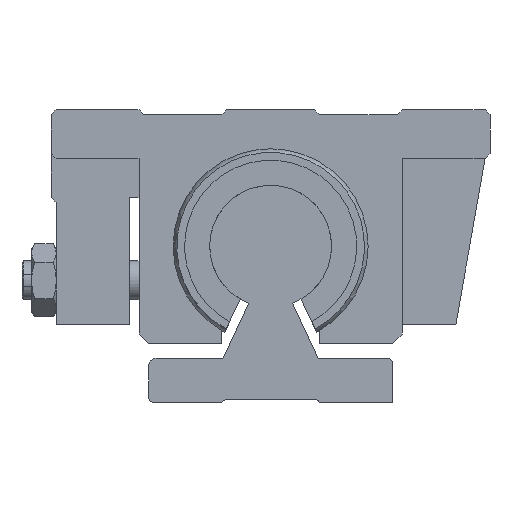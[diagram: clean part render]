
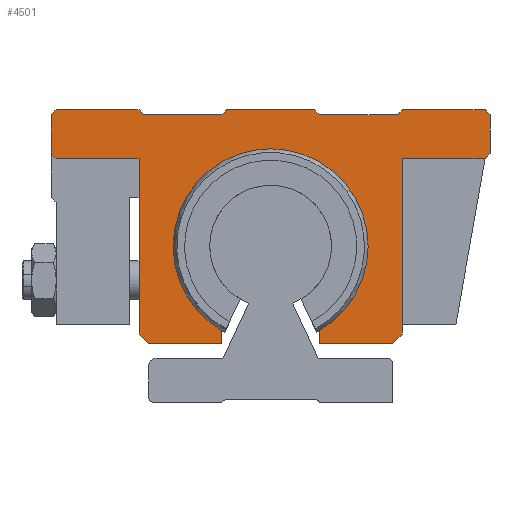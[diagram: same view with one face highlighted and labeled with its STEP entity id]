
A CAD part, left-side view. The second image highlights one B-rep face of the part: STEP entity #4501.
In plain terms, the highlighted planar face has unit normal (-1, 0, 0).
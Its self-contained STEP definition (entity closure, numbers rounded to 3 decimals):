
#4146=CARTESIAN_POINT('',(265.936,-10.,14.679));
#4147=VERTEX_POINT('',#4146);
#4154=CARTESIAN_POINT('',(265.936,10.,14.679));
#4155=VERTEX_POINT('',#4154);
#4156=CARTESIAN_POINT('',(265.936,0.,32.0));
#4157=DIRECTION('',(-1.0,0.0,0.0));
#4158=DIRECTION('',(0.0,-0.5,0.866));
#4159=AXIS2_PLACEMENT_3D('',#4156,#4157,#4158);
#4160=CIRCLE('',#4159,20.0);
#4161=EDGE_CURVE('',#4147,#4155,#4160,.T.);
#4263=CARTESIAN_POINT('',(265.936,-45.,51.));
#4264=VERTEX_POINT('',#4263);
#4271=CARTESIAN_POINT('',(265.936,-44.,50.0));
#4272=VERTEX_POINT('',#4271);
#4273=CARTESIAN_POINT('',(265.936,-45.,51.));
#4274=DIRECTION('',(0.0,0.707,-0.707));
#4275=VECTOR('',#4274,1.414);
#4276=LINE('',#4273,#4275);
#4277=EDGE_CURVE('',#4264,#4272,#4276,.T.);
#4304=CARTESIAN_POINT('',(265.936,-36.,59.5));
#4305=DIRECTION('',(1.0,0.0,0.0));
#4306=DIRECTION('',(0.0,0.0,-1.0));
#4307=AXIS2_PLACEMENT_3D('',#4304,#4305,#4306);
#4308=PLANE('',#4307);
#4309=ORIENTED_EDGE('',*,*,#4277,.F.);
#4310=CARTESIAN_POINT('',(265.936,-45.,59.));
#4311=VERTEX_POINT('',#4310);
#4312=CARTESIAN_POINT('',(265.936,-45.,59.));
#4313=DIRECTION('',(0.0,0.0,-1.0));
#4314=VECTOR('',#4313,8.);
#4315=LINE('',#4312,#4314);
#4316=EDGE_CURVE('',#4311,#4264,#4315,.T.);
#4317=ORIENTED_EDGE('',*,*,#4316,.F.);
#4318=CARTESIAN_POINT('',(265.936,-44.,60.0));
#4319=VERTEX_POINT('',#4318);
#4320=CARTESIAN_POINT('',(265.936,-44.,60.0));
#4321=DIRECTION('',(0.0,-0.707,-0.707));
#4322=VECTOR('',#4321,1.414);
#4323=LINE('',#4320,#4322);
#4324=EDGE_CURVE('',#4319,#4311,#4323,.T.);
#4325=ORIENTED_EDGE('',*,*,#4324,.F.);
#4326=CARTESIAN_POINT('',(265.936,-27.,60.0));
#4327=VERTEX_POINT('',#4326);
#4328=CARTESIAN_POINT('',(265.936,-27.,60.0));
#4329=DIRECTION('',(0.0,-1.0,0.0));
#4330=VECTOR('',#4329,17.0);
#4331=LINE('',#4328,#4330);
#4332=EDGE_CURVE('',#4327,#4319,#4331,.T.);
#4333=ORIENTED_EDGE('',*,*,#4332,.F.);
#4334=CARTESIAN_POINT('',(265.936,-26.,59.));
#4335=VERTEX_POINT('',#4334);
#4336=CARTESIAN_POINT('',(265.936,-26.,59.));
#4337=DIRECTION('',(0.0,-0.707,0.707));
#4338=VECTOR('',#4337,1.414);
#4339=LINE('',#4336,#4338);
#4340=EDGE_CURVE('',#4335,#4327,#4339,.T.);
#4341=ORIENTED_EDGE('',*,*,#4340,.F.);
#4342=CARTESIAN_POINT('',(265.936,-10.,59.));
#4343=VERTEX_POINT('',#4342);
#4344=CARTESIAN_POINT('',(265.936,-10.,59.));
#4345=DIRECTION('',(0.0,-1.0,0.0));
#4346=VECTOR('',#4345,16.0);
#4347=LINE('',#4344,#4346);
#4348=EDGE_CURVE('',#4343,#4335,#4347,.T.);
#4349=ORIENTED_EDGE('',*,*,#4348,.F.);
#4350=CARTESIAN_POINT('',(265.936,-9.,60.0));
#4351=VERTEX_POINT('',#4350);
#4352=CARTESIAN_POINT('',(265.936,-9.,60.0));
#4353=DIRECTION('',(0.0,-0.707,-0.707));
#4354=VECTOR('',#4353,1.414);
#4355=LINE('',#4352,#4354);
#4356=EDGE_CURVE('',#4351,#4343,#4355,.T.);
#4357=ORIENTED_EDGE('',*,*,#4356,.F.);
#4358=CARTESIAN_POINT('',(265.936,9.,60.0));
#4359=VERTEX_POINT('',#4358);
#4360=CARTESIAN_POINT('',(265.936,9.,60.0));
#4361=DIRECTION('',(0.0,-1.0,0.0));
#4362=VECTOR('',#4361,18.);
#4363=LINE('',#4360,#4362);
#4364=EDGE_CURVE('',#4359,#4351,#4363,.T.);
#4365=ORIENTED_EDGE('',*,*,#4364,.F.);
#4366=CARTESIAN_POINT('',(265.936,10.,59.));
#4367=VERTEX_POINT('',#4366);
#4368=CARTESIAN_POINT('',(265.936,10.,59.));
#4369=DIRECTION('',(0.0,-0.707,0.707));
#4370=VECTOR('',#4369,1.414);
#4371=LINE('',#4368,#4370);
#4372=EDGE_CURVE('',#4367,#4359,#4371,.T.);
#4373=ORIENTED_EDGE('',*,*,#4372,.F.);
#4374=CARTESIAN_POINT('',(265.936,26.,59.));
#4375=VERTEX_POINT('',#4374);
#4376=CARTESIAN_POINT('',(265.936,26.,59.));
#4377=DIRECTION('',(0.0,-1.0,0.0));
#4378=VECTOR('',#4377,16.);
#4379=LINE('',#4376,#4378);
#4380=EDGE_CURVE('',#4375,#4367,#4379,.T.);
#4381=ORIENTED_EDGE('',*,*,#4380,.F.);
#4382=CARTESIAN_POINT('',(265.936,27.,60.0));
#4383=VERTEX_POINT('',#4382);
#4384=CARTESIAN_POINT('',(265.936,27.,60.0));
#4385=DIRECTION('',(0.0,-0.707,-0.707));
#4386=VECTOR('',#4385,1.414);
#4387=LINE('',#4384,#4386);
#4388=EDGE_CURVE('',#4383,#4375,#4387,.T.);
#4389=ORIENTED_EDGE('',*,*,#4388,.F.);
#4390=CARTESIAN_POINT('',(265.936,44.,60.0));
#4391=VERTEX_POINT('',#4390);
#4392=CARTESIAN_POINT('',(265.936,44.,60.0));
#4393=DIRECTION('',(0.0,-1.0,0.0));
#4394=VECTOR('',#4393,17.0);
#4395=LINE('',#4392,#4394);
#4396=EDGE_CURVE('',#4391,#4383,#4395,.T.);
#4397=ORIENTED_EDGE('',*,*,#4396,.F.);
#4398=CARTESIAN_POINT('',(265.936,45.,59.));
#4399=VERTEX_POINT('',#4398);
#4400=CARTESIAN_POINT('',(265.936,45.,59.));
#4401=DIRECTION('',(0.0,-0.707,0.707));
#4402=VECTOR('',#4401,1.414);
#4403=LINE('',#4400,#4402);
#4404=EDGE_CURVE('',#4399,#4391,#4403,.T.);
#4405=ORIENTED_EDGE('',*,*,#4404,.F.);
#4406=CARTESIAN_POINT('',(265.936,45.,51.));
#4407=VERTEX_POINT('',#4406);
#4408=CARTESIAN_POINT('',(265.936,45.,51.));
#4409=DIRECTION('',(0.0,0.0,1.0));
#4410=VECTOR('',#4409,8.);
#4411=LINE('',#4408,#4410);
#4412=EDGE_CURVE('',#4407,#4399,#4411,.T.);
#4413=ORIENTED_EDGE('',*,*,#4412,.F.);
#4414=CARTESIAN_POINT('',(265.936,44.,50.0));
#4415=VERTEX_POINT('',#4414);
#4416=CARTESIAN_POINT('',(265.936,44.,50.0));
#4417=DIRECTION('',(0.0,0.707,0.707));
#4418=VECTOR('',#4417,1.414);
#4419=LINE('',#4416,#4418);
#4420=EDGE_CURVE('',#4415,#4407,#4419,.T.);
#4421=ORIENTED_EDGE('',*,*,#4420,.F.);
#4422=CARTESIAN_POINT('',(265.936,27.,50.0));
#4423=VERTEX_POINT('',#4422);
#4424=CARTESIAN_POINT('',(265.936,27.,50.0));
#4425=DIRECTION('',(0.0,1.0,0.0));
#4426=VECTOR('',#4425,17.0);
#4427=LINE('',#4424,#4426);
#4428=EDGE_CURVE('',#4423,#4415,#4427,.T.);
#4429=ORIENTED_EDGE('',*,*,#4428,.F.);
#4430=CARTESIAN_POINT('',(265.936,27.,14.));
#4431=VERTEX_POINT('',#4430);
#4432=CARTESIAN_POINT('',(265.936,27.,14.));
#4433=DIRECTION('',(0.0,0.0,1.0));
#4434=VECTOR('',#4433,36.);
#4435=LINE('',#4432,#4434);
#4436=EDGE_CURVE('',#4431,#4423,#4435,.T.);
#4437=ORIENTED_EDGE('',*,*,#4436,.F.);
#4438=CARTESIAN_POINT('',(265.936,25.,12.));
#4439=VERTEX_POINT('',#4438);
#4440=CARTESIAN_POINT('',(265.936,25.,12.));
#4441=DIRECTION('',(0.0,0.707,0.707));
#4442=VECTOR('',#4441,2.828);
#4443=LINE('',#4440,#4442);
#4444=EDGE_CURVE('',#4439,#4431,#4443,.T.);
#4445=ORIENTED_EDGE('',*,*,#4444,.F.);
#4446=CARTESIAN_POINT('',(265.936,10.,12.));
#4447=VERTEX_POINT('',#4446);
#4448=CARTESIAN_POINT('',(265.936,10.,12.));
#4449=DIRECTION('',(0.0,1.0,0.0));
#4450=VECTOR('',#4449,15.);
#4451=LINE('',#4448,#4450);
#4452=EDGE_CURVE('',#4447,#4439,#4451,.T.);
#4453=ORIENTED_EDGE('',*,*,#4452,.F.);
#4454=CARTESIAN_POINT('',(265.936,10.,14.679));
#4455=DIRECTION('',(0.0,0.0,-1.0));
#4456=VECTOR('',#4455,2.679);
#4457=LINE('',#4454,#4456);
#4458=EDGE_CURVE('',#4155,#4447,#4457,.T.);
#4459=ORIENTED_EDGE('',*,*,#4458,.F.);
#4460=ORIENTED_EDGE('',*,*,#4161,.F.);
#4461=CARTESIAN_POINT('',(265.936,-10.,12.));
#4462=VERTEX_POINT('',#4461);
#4463=CARTESIAN_POINT('',(265.936,-10.,12.));
#4464=DIRECTION('',(0.0,0.0,1.0));
#4465=VECTOR('',#4464,2.679);
#4466=LINE('',#4463,#4465);
#4467=EDGE_CURVE('',#4462,#4147,#4466,.T.);
#4468=ORIENTED_EDGE('',*,*,#4467,.F.);
#4469=CARTESIAN_POINT('',(265.936,-25.,12.));
#4470=VERTEX_POINT('',#4469);
#4471=CARTESIAN_POINT('',(265.936,-25.,12.));
#4472=DIRECTION('',(0.0,1.0,0.0));
#4473=VECTOR('',#4472,15.);
#4474=LINE('',#4471,#4473);
#4475=EDGE_CURVE('',#4470,#4462,#4474,.T.);
#4476=ORIENTED_EDGE('',*,*,#4475,.F.);
#4477=CARTESIAN_POINT('',(265.936,-27.,14.));
#4478=VERTEX_POINT('',#4477);
#4479=CARTESIAN_POINT('',(265.936,-27.,14.));
#4480=DIRECTION('',(0.0,0.707,-0.707));
#4481=VECTOR('',#4480,2.828);
#4482=LINE('',#4479,#4481);
#4483=EDGE_CURVE('',#4478,#4470,#4482,.T.);
#4484=ORIENTED_EDGE('',*,*,#4483,.F.);
#4485=CARTESIAN_POINT('',(265.936,-27.,50.0));
#4486=VERTEX_POINT('',#4485);
#4487=CARTESIAN_POINT('',(265.936,-27.,50.0));
#4488=DIRECTION('',(0.0,0.0,-1.0));
#4489=VECTOR('',#4488,36.);
#4490=LINE('',#4487,#4489);
#4491=EDGE_CURVE('',#4486,#4478,#4490,.T.);
#4492=ORIENTED_EDGE('',*,*,#4491,.F.);
#4493=CARTESIAN_POINT('',(265.936,-44.,50.0));
#4494=DIRECTION('',(0.0,1.0,0.0));
#4495=VECTOR('',#4494,17.);
#4496=LINE('',#4493,#4495);
#4497=EDGE_CURVE('',#4272,#4486,#4496,.T.);
#4498=ORIENTED_EDGE('',*,*,#4497,.F.);
#4499=EDGE_LOOP('',(#4309,#4317,#4325,#4333,#4341,#4349,#4357,#4365,#4373,#4381,#4389,#4397,#4405,#4413,#4421,#4429,#4437,#4445,#4453,#4459,#4460,#4468,#4476,#4484,#4492,#4498));
#4500=FACE_OUTER_BOUND('',#4499,.T.);
#4501=ADVANCED_FACE('',(#4500),#4308,.F.);
